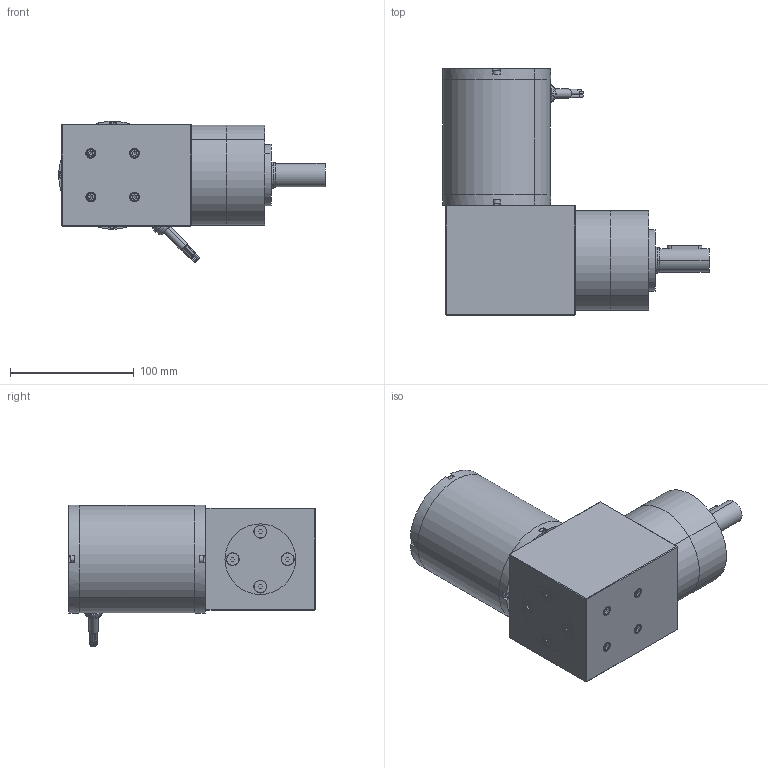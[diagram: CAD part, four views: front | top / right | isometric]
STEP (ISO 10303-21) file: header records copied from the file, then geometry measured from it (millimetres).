
FILE_DESCRIPTION (( 'STEP AP203' ), '1' );
FILE_NAME ('bl87500gra1.step', '2018-12-07T19:12:32', ( '' ), ( '' ), 'SwSTEP 2.0', 'SolidWorks 2017', '' );
FILE_SCHEMA (( 'CONFIG_CONTROL_DESIGN' ));
Length unit declared in the file: inch
Products named in the file (1): bl87500gra1
Bounding box: 215.73 x 199.39 x 114.6 mm (x, y, z)
Volume: 1758965.4 mm3; surface area: 198302 mm2
Topology: 30 solids, 30 shells, 1204 faces, 3022 edges, 1946 vertices
Faces by surface type: cylinder 723, plane 350, cone 113, torus 10, bspline 8
Entity records: 55068 total; most frequent: CARTESIAN_POINT 28713, ORIENTED_EDGE 5996, DIRECTION 5017, EDGE_CURVE 2998, VERTEX_POINT 1946, AXIS2_PLACEMENT_3D 1830, LINE 1357, VECTOR 1357
